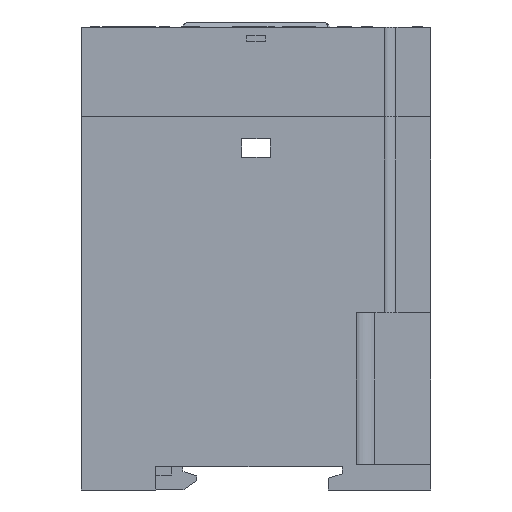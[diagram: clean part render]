
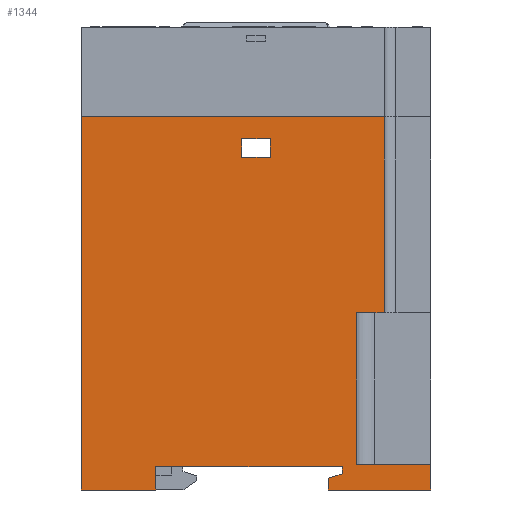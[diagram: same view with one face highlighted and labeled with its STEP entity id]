
A CAD part, left-side view. The second image highlights one B-rep face of the part: STEP entity #1344.
In plain terms, the highlighted planar face has unit normal (-1, 0, 0).
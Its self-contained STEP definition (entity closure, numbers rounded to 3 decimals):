
#1344=ADVANCED_FACE('',(#30121,#30123),#30125,.T.);
#30121=FACE_BOUND('',#30122,.T.);
#30122=EDGE_LOOP('',(#56438,#56439,#56440,#56441,#56442,#56443,#56444,#56445,#56446,
#56447,#56448,#56449,#56450,#56451));
#30123=FACE_BOUND('',#30124,.T.);
#30124=EDGE_LOOP('',(#56452,#56453,#56454,#56455));
#30125=PLANE('',#30126);
#30126=AXIS2_PLACEMENT_3D('',#30127,#30128,#30129);
#30127=CARTESIAN_POINT('',(-45.,0.,0.));
#30128=DIRECTION('',(-1.,0.,0.));
#30129=DIRECTION('',(0.,-1.,0.));
#56438=ORIENTED_EDGE('',*,*,#74571,.T.);
#56439=ORIENTED_EDGE('',*,*,#74533,.T.);
#56440=ORIENTED_EDGE('',*,*,#74572,.T.);
#56441=ORIENTED_EDGE('',*,*,#74573,.T.);
#56442=ORIENTED_EDGE('',*,*,#74574,.T.);
#56443=ORIENTED_EDGE('',*,*,#74575,.T.);
#56444=ORIENTED_EDGE('',*,*,#74576,.T.);
#56445=ORIENTED_EDGE('',*,*,#74577,.F.);
#56446=ORIENTED_EDGE('',*,*,#74578,.F.);
#56447=ORIENTED_EDGE('',*,*,#74552,.T.);
#56448=ORIENTED_EDGE('',*,*,#74579,.T.);
#56449=ORIENTED_EDGE('',*,*,#74507,.T.);
#56450=ORIENTED_EDGE('',*,*,#74580,.T.);
#56451=ORIENTED_EDGE('',*,*,#74581,.T.);
#56452=ORIENTED_EDGE('',*,*,#74478,.T.);
#56453=ORIENTED_EDGE('',*,*,#74485,.T.);
#56454=ORIENTED_EDGE('',*,*,#74491,.T.);
#56455=ORIENTED_EDGE('',*,*,#74495,.T.);
#74478=EDGE_CURVE('',#83563,#83561,#83564,.F.);
#74485=EDGE_CURVE('',#83561,#83573,#83575,.F.);
#74491=EDGE_CURVE('',#83573,#83583,#83585,.F.);
#74495=EDGE_CURVE('',#83583,#83563,#83589,.F.);
#74507=EDGE_CURVE('',#83613,#83611,#83614,.T.);
#74533=EDGE_CURVE('',#83650,#83657,#83659,.T.);
#74552=EDGE_CURVE('',#83695,#83693,#83696,.T.);
#74571=EDGE_CURVE('',#83729,#83650,#83730,.F.);
#74572=EDGE_CURVE('',#83657,#83731,#83732,.T.);
#74573=EDGE_CURVE('',#83731,#83733,#83734,.T.);
#74574=EDGE_CURVE('',#83733,#83735,#83736,.F.);
#74575=EDGE_CURVE('',#83735,#83737,#83738,.F.);
#74576=EDGE_CURVE('',#83737,#83739,#83740,.F.);
#74577=EDGE_CURVE('',#83741,#83739,#83742,.T.);
#74578=EDGE_CURVE('',#83695,#83741,#83743,.T.);
#74579=EDGE_CURVE('',#83693,#83613,#83744,.F.);
#74580=EDGE_CURVE('',#83611,#83745,#83746,.F.);
#74581=EDGE_CURVE('',#83745,#83729,#83747,.F.);
#83561=VERTEX_POINT('',#98689);
#83563=VERTEX_POINT('',#98693);
#83564=LINE('',#98694,#98695);
#83573=VERTEX_POINT('',#98715);
#83575=LINE('',#98719,#98720);
#83583=VERTEX_POINT('',#98737);
#83585=LINE('',#98741,#98742);
#83589=LINE('',#98753,#98754);
#83611=VERTEX_POINT('',#98797);
#83613=VERTEX_POINT('',#98801);
#83614=LINE('',#98802,#98803);
#83650=VERTEX_POINT('',#98880);
#83657=VERTEX_POINT('',#98895);
#83659=LINE('',#98899,#98900);
#83693=VERTEX_POINT('',#98969);
#83695=VERTEX_POINT('',#98973);
#83696=LINE('',#98974,#98975);
#83729=VERTEX_POINT('',#99045);
#83730=LINE('',#99046,#99047);
#83731=VERTEX_POINT('',#99049);
#83732=LINE('',#99050,#99051);
#83733=VERTEX_POINT('',#99053);
#83734=LINE('',#99054,#99055);
#83735=VERTEX_POINT('',#99057);
#83736=LINE('',#99058,#99059);
#83737=VERTEX_POINT('',#99061);
#83738=LINE('',#99062,#99063);
#83739=VERTEX_POINT('',#99065);
#83740=LINE('',#99066,#99067);
#83741=VERTEX_POINT('',#99069);
#83742=LINE('',#99070,#99071);
#83743=LINE('',#99073,#99074);
#83744=LINE('',#99076,#99077);
#83745=VERTEX_POINT('',#99079);
#83746=LINE('',#99080,#99081);
#83747=LINE('',#99083,#99084);
#98689=CARTESIAN_POINT('',(-45.,-40.6,71.3));
#98693=CARTESIAN_POINT('',(-45.,-40.6,75.3));
#98694=CARTESIAN_POINT('',(-45.,-40.6,71.3));
#98695=VECTOR('',#98696,1.);
#98696=DIRECTION('',(0.,0.,1.));
#98715=CARTESIAN_POINT('',(-45.,-34.4,71.3));
#98719=CARTESIAN_POINT('',(-45.,-34.4,71.3));
#98720=VECTOR('',#98721,1.);
#98721=DIRECTION('',(0.,-1.,0.));
#98737=CARTESIAN_POINT('',(-45.,-34.4,75.3));
#98741=CARTESIAN_POINT('',(-45.,-34.4,75.3));
#98742=VECTOR('',#98743,1.);
#98743=DIRECTION('',(0.,0.,-1.));
#98753=CARTESIAN_POINT('',(-45.,-40.6,75.3));
#98754=VECTOR('',#98755,1.);
#98755=DIRECTION('',(0.,1.,0.));
#98797=CARTESIAN_POINT('',(-45.,-56.,5.005));
#98801=CARTESIAN_POINT('',(-45.,-16.,5.005));
#98802=CARTESIAN_POINT('',(-45.,-16.,5.005));
#98803=VECTOR('',#98804,1.);
#98804=DIRECTION('',(0.,-1.,0.));
#98880=CARTESIAN_POINT('',(-45.,-53.,0.));
#98895=CARTESIAN_POINT('',(-45.,-75.,0.));
#98899=CARTESIAN_POINT('',(-45.,-53.,0.));
#98900=VECTOR('',#98901,1.);
#98901=DIRECTION('',(0.,-1.,0.));
#98969=CARTESIAN_POINT('',(-45.,-16.,0.));
#98973=CARTESIAN_POINT('',(-45.,0.,0.));
#98974=CARTESIAN_POINT('',(-45.,0.,0.));
#98975=VECTOR('',#98976,1.);
#98976=DIRECTION('',(0.,-1.,0.));
#99045=CARTESIAN_POINT('',(-45.,-53.,2.505));
#99046=CARTESIAN_POINT('',(-45.,-53.,0.));
#99047=VECTOR('',#99048,1.);
#99048=DIRECTION('',(0.,0.,1.));
#99049=CARTESIAN_POINT('',(-45.,-75.,5.5));
#99050=CARTESIAN_POINT('',(-45.,-75.,0.));
#99051=VECTOR('',#99052,1.);
#99052=DIRECTION('',(0.,0.,1.));
#99053=CARTESIAN_POINT('',(-45.,-59.,5.5));
#99054=CARTESIAN_POINT('',(-45.,-75.,5.5));
#99055=VECTOR('',#99056,1.);
#99056=DIRECTION('',(0.,1.,0.));
#99057=CARTESIAN_POINT('',(-45.,-59.,38.));
#99058=CARTESIAN_POINT('',(-45.,-59.,38.));
#99059=VECTOR('',#99060,1.);
#99060=DIRECTION('',(0.,0.,-1.));
#99061=CARTESIAN_POINT('',(-45.,-65.,38.));
#99062=CARTESIAN_POINT('',(-45.,-65.,38.));
#99063=VECTOR('',#99064,1.);
#99064=DIRECTION('',(0.,1.,0.));
#99065=CARTESIAN_POINT('',(-45.,-65.,80.));
#99066=CARTESIAN_POINT('',(-45.,-65.,80.));
#99067=VECTOR('',#99068,1.);
#99068=DIRECTION('',(0.,0.,-1.));
#99069=CARTESIAN_POINT('',(-45.,0.,80.));
#99070=CARTESIAN_POINT('',(-45.,0.,80.));
#99071=VECTOR('',#99072,1.);
#99072=DIRECTION('',(0.,-1.,0.));
#99073=CARTESIAN_POINT('',(-45.,0.,0.));
#99074=VECTOR('',#99075,1.);
#99075=DIRECTION('',(0.,0.,1.));
#99076=CARTESIAN_POINT('',(-45.,-16.,5.005));
#99077=VECTOR('',#99078,1.);
#99078=DIRECTION('',(0.,0.,-1.));
#99079=CARTESIAN_POINT('',(-45.,-56.,3.505));
#99080=CARTESIAN_POINT('',(-45.,-56.,3.505));
#99081=VECTOR('',#99082,1.);
#99082=DIRECTION('',(0.,0.,1.));
#99083=CARTESIAN_POINT('',(-45.,-53.,2.505));
#99084=VECTOR('',#99085,1.);
#99085=DIRECTION('',(0.,-0.949,0.316));
